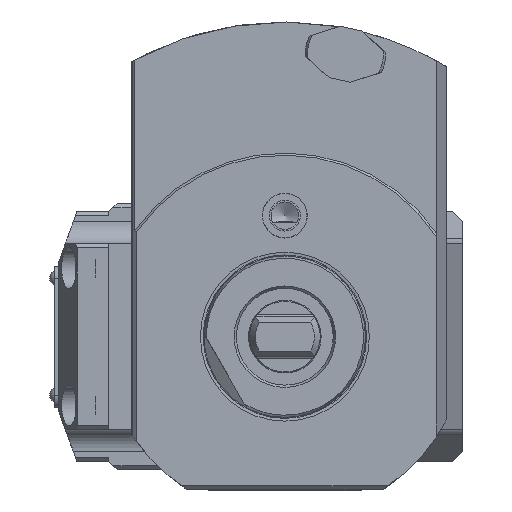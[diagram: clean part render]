
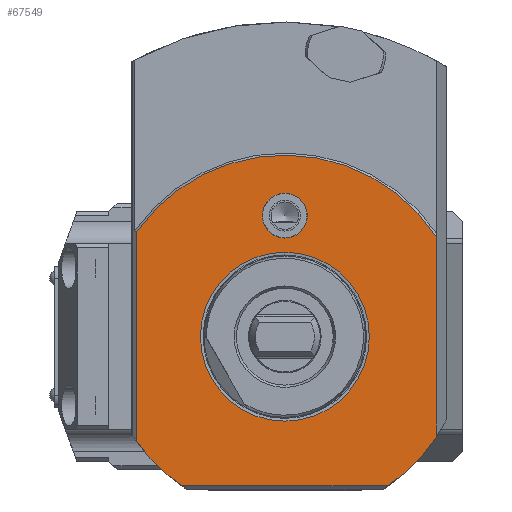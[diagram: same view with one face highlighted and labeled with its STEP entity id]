
A CAD part, left-side view. The second image highlights one B-rep face of the part: STEP entity #67549.
In plain terms, the highlighted planar face has unit normal (-1, 0, 0).
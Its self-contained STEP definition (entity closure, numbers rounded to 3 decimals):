
#26894=CIRCLE('',#65272,45.);
#26895=CIRCLE('',#65273,45.);
#26896=CIRCLE('',#65274,45.);
#26897=CIRCLE('',#65275,5.55);
#26898=CIRCLE('',#65276,20.94);
#28129=ORIENTED_EDGE('',*,*,#36751,.F.);
#28130=ORIENTED_EDGE('',*,*,#36752,.F.);
#28131=ORIENTED_EDGE('',*,*,#36753,.T.);
#28132=ORIENTED_EDGE('',*,*,#36747,.F.);
#28133=ORIENTED_EDGE('',*,*,#36754,.F.);
#28134=ORIENTED_EDGE('',*,*,#36755,.F.);
#28135=ORIENTED_EDGE('',*,*,#36756,.F.);
#28136=ORIENTED_EDGE('',*,*,#36757,.F.);
#32548=VECTOR('',#41790,1.);
#32550=VECTOR('',#41800,1.);
#32551=VECTOR('',#41805,1.);
#33822=LINE('',#48427,#32548);
#33824=LINE('',#48437,#32550);
#33825=LINE('',#48441,#32551);
#35098=VERTEX_POINT('',#48425);
#35099=VERTEX_POINT('',#48426);
#35101=VERTEX_POINT('',#48433);
#35102=VERTEX_POINT('',#48434);
#35103=VERTEX_POINT('',#48436);
#35104=VERTEX_POINT('',#48439);
#35105=VERTEX_POINT('',#48442);
#35106=VERTEX_POINT('',#48444);
#36747=EDGE_CURVE('',#35098,#35099,#33822,.T.);
#36751=EDGE_CURVE('',#35101,#35102,#26894,.T.);
#36752=EDGE_CURVE('',#35103,#35101,#33824,.T.);
#36753=EDGE_CURVE('',#35103,#35099,#26895,.T.);
#36754=EDGE_CURVE('',#35104,#35098,#26896,.T.);
#36755=EDGE_CURVE('',#35102,#35104,#33825,.T.);
#36756=EDGE_CURVE('',#35105,#35105,#26897,.T.);
#36757=EDGE_CURVE('',#35106,#35106,#26898,.T.);
#38870=EDGE_LOOP('',(#28129,#28130,#28131,#28132,#28133,#28134));
#38871=EDGE_LOOP('',(#28135));
#38872=EDGE_LOOP('',(#28136));
#40178=FACE_BOUND('',#38870,.T.);
#40179=FACE_BOUND('',#38871,.T.);
#40180=FACE_BOUND('',#38872,.T.);
#41790=DIRECTION('',(0.,0.,52.081));
#41796=DIRECTION('',(-1.,0.,0.));
#41797=DIRECTION('',(0.,1.,0.));
#41798=DIRECTION('',(1.,0.,0.));
#41799=DIRECTION('',(0.,-37.5,-24.875));
#41800=DIRECTION('',(0.,0.,-49.749));
#41801=DIRECTION('',(-1.,0.,0.));
#41802=DIRECTION('',(0.,-37.5,24.875));
#41803=DIRECTION('',(1.,0.,0.));
#41804=DIRECTION('',(0.,24.104,-38.));
#41805=DIRECTION('',(0.,51.225,0.));
#41806=DIRECTION('',(-1.,0.,0.));
#41807=DIRECTION('',(0.,5.55,0.));
#41808=DIRECTION('',(-1.,0.,0.));
#41809=DIRECTION('',(0.,20.94,0.));
#48425=CARTESIAN_POINT('',(0.,36.7,-26.041));
#48426=CARTESIAN_POINT('',(0.,36.7,26.041));
#48427=CARTESIAN_POINT('',(0.,36.7,-26.041));
#48432=CARTESIAN_POINT('',(0.,-37.5,-24.875));
#48433=CARTESIAN_POINT('',(0.,-37.5,-24.875));
#48434=CARTESIAN_POINT('',(0.,-25.612,-37.));
#48435=CARTESIAN_POINT('',(0.,0.,0.));
#48436=CARTESIAN_POINT('',(0.,-37.5,24.875));
#48437=CARTESIAN_POINT('',(0.,-37.5,24.875));
#48438=CARTESIAN_POINT('',(0.,0.,0.));
#48439=CARTESIAN_POINT('',(0.,25.612,-37.));
#48440=CARTESIAN_POINT('',(0.,0.,0.));
#48441=CARTESIAN_POINT('',(0.,-25.612,-37.));
#48442=CARTESIAN_POINT('',(0.,5.55,30.));
#48443=CARTESIAN_POINT('',(0.,0.,30.));
#48444=CARTESIAN_POINT('',(0.,20.94,0.));
#48445=CARTESIAN_POINT('',(0.,0.,0.));
#65271=AXIS2_PLACEMENT_3D('',#48432,#41796,#41797);
#65272=AXIS2_PLACEMENT_3D('',#48435,#41798,#41799);
#65273=AXIS2_PLACEMENT_3D('',#48438,#41801,#41802);
#65274=AXIS2_PLACEMENT_3D('',#48440,#41803,#41804);
#65275=AXIS2_PLACEMENT_3D('',#48443,#41806,#41807);
#65276=AXIS2_PLACEMENT_3D('',#48445,#41808,#41809);
#66909=PLANE('',#65271);
#67549=ADVANCED_FACE('',(#40178,#40179,#40180),#66909,.T.);
